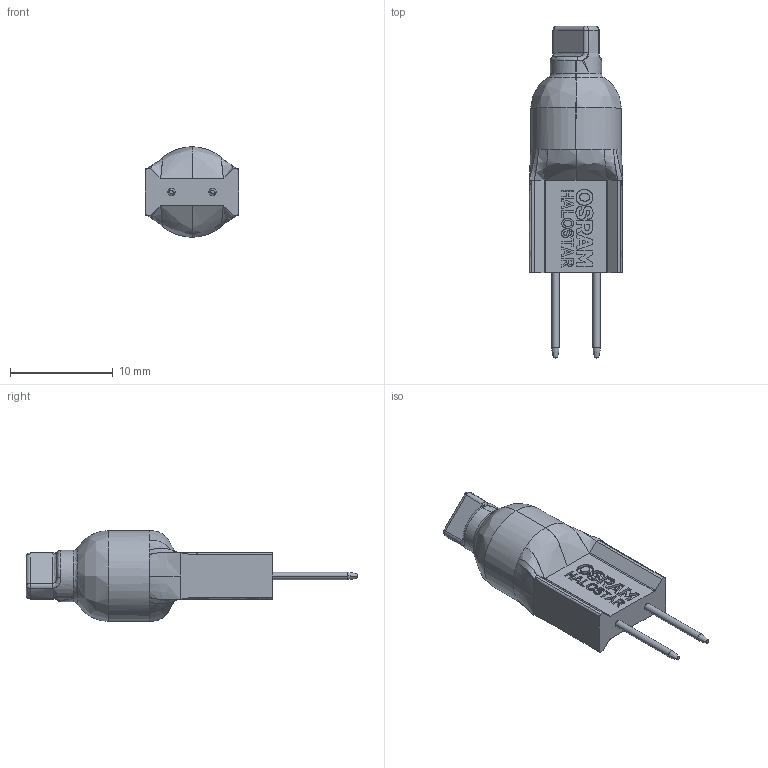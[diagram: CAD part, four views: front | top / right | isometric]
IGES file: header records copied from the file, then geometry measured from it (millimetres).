
Start section: SolidWorks IGES file using analytic representation for surfaces
Global section: file name: H:\offline\CAD\HAL\HALOSTAR STARLITE\HALOSTAR_STARLITE_G4.IGS; native system: SolidWorks 2009; preprocessor: SolidWorks 2009; author: m.schachtner; date: 100112.133455; units: millimetre
Bounding box: 9.1 x 32.3 x 8.8 mm (x, y, z)
Surface area: 743 mm2 (no closed solid volume)
Topology: 0 solids, 0 shells, 398 faces, 3466 edges, 3456 vertices
Faces by surface type: bspline 367, revolution 31
